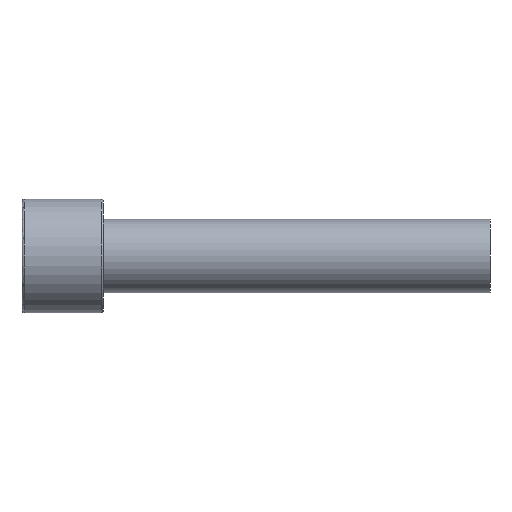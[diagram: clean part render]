
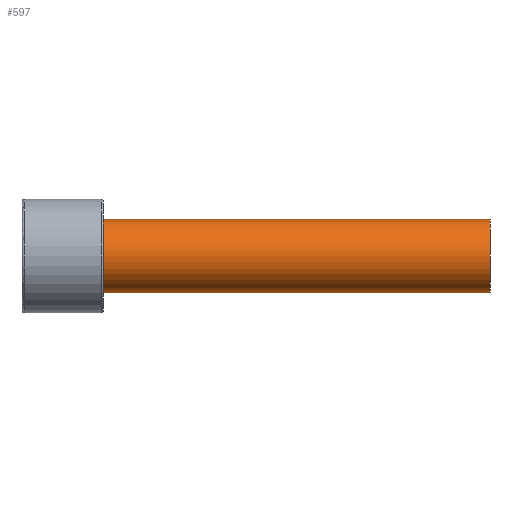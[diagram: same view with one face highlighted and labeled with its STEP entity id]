
A CAD part, front view. The second image highlights one B-rep face of the part: STEP entity #597.
In plain terms, the highlighted cylindrical face has radius 9 mm (diameter 18 mm), a partial arc.
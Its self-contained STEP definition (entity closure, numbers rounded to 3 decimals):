
#431=CARTESIAN_POINT('Vertex',(115.,0.,9.)) ;
#434=CARTESIAN_POINT('Axis2P3D Location',(115.,0.,0.)) ;
#438=CARTESIAN_POINT('Vertex',(115.,-9.,0.)) ;
#441=CARTESIAN_POINT('Axis2P3D Location',(115.,0.,0.)) ;
#445=CARTESIAN_POINT('Vertex',(115.,0.,-9.)) ;
#537=CARTESIAN_POINT('Line Origine',(115.,0.,9.)) ;
#541=CARTESIAN_POINT('Vertex',(20.,0.,9.)) ;
#544=CARTESIAN_POINT('Line Origine',(115.,0.,-9.)) ;
#548=CARTESIAN_POINT('Vertex',(20.,0.,-9.)) ;
#572=CARTESIAN_POINT('Axis2P3D Location',(115.,0.,0.)) ;
#577=CARTESIAN_POINT('Axis2P3D Location',(20.,0.,0.)) ;
#581=CARTESIAN_POINT('Vertex',(20.,-9.,0.)) ;
#584=CARTESIAN_POINT('Axis2P3D Location',(20.,0.,0.)) ;
#435=DIRECTION('Axis2P3D Direction',(1.,0.,-0.)) ;
#442=DIRECTION('Axis2P3D Direction',(1.,0.,-0.)) ;
#538=DIRECTION('Vector Direction',(-1.,0.,0.)) ;
#545=DIRECTION('Vector Direction',(-1.,0.,0.)) ;
#573=DIRECTION('Axis2P3D Direction',(-1.,-0.,-0.)) ;
#574=DIRECTION('Axis2P3D XDirection',(0.,0.,-1.)) ;
#578=DIRECTION('Axis2P3D Direction',(-1.,-0.,-0.)) ;
#585=DIRECTION('Axis2P3D Direction',(-1.,-0.,-0.)) ;
#436=AXIS2_PLACEMENT_3D('Circle Axis2P3D',#434,#435,$) ;
#443=AXIS2_PLACEMENT_3D('Circle Axis2P3D',#441,#442,$) ;
#575=AXIS2_PLACEMENT_3D('Cylinder Axis2P3D',#572,#573,#574) ;
#579=AXIS2_PLACEMENT_3D('Circle Axis2P3D',#577,#578,$) ;
#586=AXIS2_PLACEMENT_3D('Circle Axis2P3D',#584,#585,$) ;
#590=ORIENTED_EDGE('',*,*,#550,.T.) ;
#591=ORIENTED_EDGE('',*,*,#447,.F.) ;
#592=ORIENTED_EDGE('',*,*,#440,.F.) ;
#593=ORIENTED_EDGE('',*,*,#543,.T.) ;
#594=ORIENTED_EDGE('',*,*,#583,.T.) ;
#595=ORIENTED_EDGE('',*,*,#588,.T.) ;
#539=VECTOR('Line Direction',#538,1.) ;
#546=VECTOR('Line Direction',#545,1.) ;
#597=ADVANCED_FACE('367F-18X115',(#596),#576,.T.) ;
#437=CIRCLE('generated circle',#436,9.) ;
#444=CIRCLE('generated circle',#443,9.) ;
#580=CIRCLE('generated circle',#579,9.) ;
#587=CIRCLE('generated circle',#586,9.) ;
#576=CYLINDRICAL_SURFACE('generated cylinder',#575,9.) ;
#440=EDGE_CURVE('',#432,#439,#437,.T.) ;
#447=EDGE_CURVE('',#439,#446,#444,.T.) ;
#543=EDGE_CURVE('',#432,#542,#540,.T.) ;
#550=EDGE_CURVE('',#549,#446,#547,.F.) ;
#583=EDGE_CURVE('',#542,#582,#580,.F.) ;
#588=EDGE_CURVE('',#582,#549,#587,.F.) ;
#589=EDGE_LOOP('',(#590,#591,#592,#593,#594,#595)) ;
#596=FACE_OUTER_BOUND('',#589,.T.) ;
#540=LINE('Line',#537,#539) ;
#547=LINE('Line',#544,#546) ;
#432=VERTEX_POINT('',#431) ;
#439=VERTEX_POINT('',#438) ;
#446=VERTEX_POINT('',#445) ;
#542=VERTEX_POINT('',#541) ;
#549=VERTEX_POINT('',#548) ;
#582=VERTEX_POINT('',#581) ;
